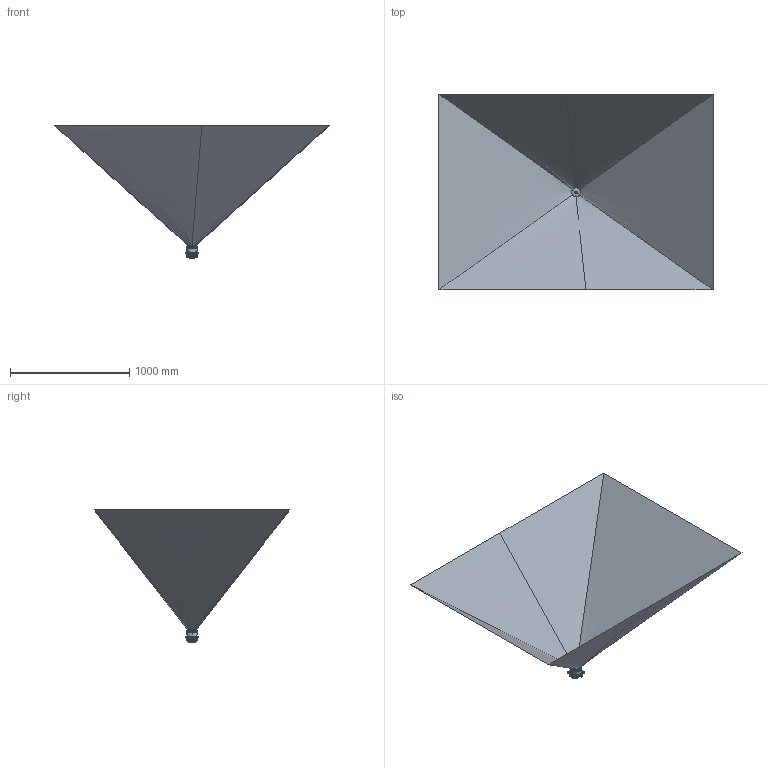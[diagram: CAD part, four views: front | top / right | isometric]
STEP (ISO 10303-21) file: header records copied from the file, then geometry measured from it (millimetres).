
FILE_DESCRIPTION(('CATIA V5 STEP Exchange','CAx-IF Rec.Pracs.--- Model Styling and Organization---1.5--- 2016-08-15','CAx-IF Rec.Pracs.---Supplemental Geometry---1.0---2011-11-01','CAx-IF Rec.Pracs.--- Composite Materials ---1.1---2010-07-15'),'2;1');
FILE_NAME('E:\tmp\ddx\2011218\HELLA_3D_data_Module_90i_LED_1G0-996-263-501.stp','2022-01-18T07:32:37+00:00',('none'),('none'),'CATIA Version 5-6 Release 2020 SP3 HF9','CATIA V5 STEP AP214 Edition 3 v2','none');
FILE_SCHEMA(('AUTOMOTIVE_DESIGN { 1 0 10303 214 3 1 1 1 }'));
Products named in the file (1): 10001227305_D10_001
Bounding box: 2297.22 x 1638.57 x 1107.85 mm (x, y, z)
Volume: 481156.5 mm3; surface area: 5636753.5 mm2
Topology: 1 solids, 4 shells, 3623 faces, 9088 edges, 5276 vertices
Faces by surface type: bspline 1120, plane 1015, cylinder 600, torus 343, extrusion 274, cone 144, sphere 127
Entity records: 161662 total; most frequent: CARTESIAN_POINT 91265, ORIENTED_EDGE 17672, EDGE_CURVE 8842, DIRECTION 8577, VERTEX_POINT 5276, B_SPLINE_CURVE_WITH_KNOTS 4533, EDGE_LOOP 3694, ADVANCED_FACE 3623
